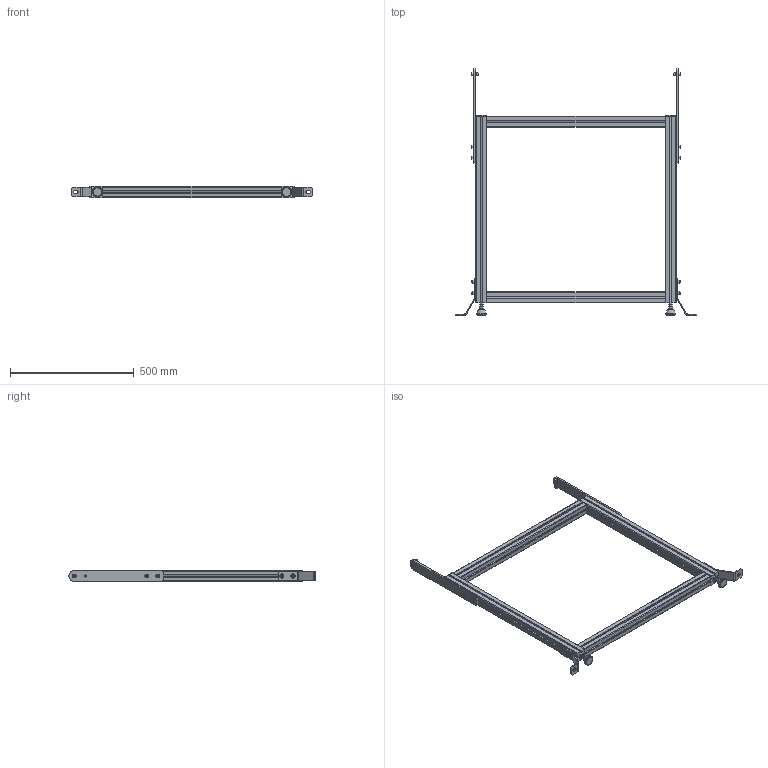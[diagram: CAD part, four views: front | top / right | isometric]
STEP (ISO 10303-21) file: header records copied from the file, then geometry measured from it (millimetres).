
FILE_DESCRIPTION (( 'STEP AP214' ), '1' );
FILE_NAME ('983-008-800.STEP', '2020-11-23T08:32:33', ( '' ), ( '' ), 'SwSTEP 2.0', 'SolidWorks 2020', '' );
FILE_SCHEMA (( 'AUTOMOTIVE_DESIGN' ));
Length unit declared in the file: millimetre
Products named in the file (15): 905-021; RONDELLE_910-111; 910-002_910-235; 935-055SV; CHASSIS JAMBAGE TB52 800_D‚faut[Brut d''usinage]; CHC THE_910-052H; CHC M8X20 + RP8; EMBOUT_915-010; 935-055; 983-007; 935-016; 910-100; 905-020; 983-008-800; 982-017
Assembly tree (22 placements, depth 4):
  983-008-800
    CHASSIS JAMBAGE TB52 800_D‚faut[Brut d''usinage]
    935-055  x2
      935-055SV
      910-100
      910-002_910-235
    EMBOUT_915-010  x2
    935-016  x2
    983-007  x2
      CHC M8X20 + RP8
        CHC THE_910-052H
        RONDELLE_910-111
      905-020
      905-021
      982-017
Bounding box: 976 x 996.5 x 45 mm (x, y, z)
Volume: 4199803 mm3; surface area: 1212847.8 mm2
Topology: 36 solids, 36 shells, 784 faces, 1912 edges, 1216 vertices
Faces by surface type: plane 530, cylinder 160, cone 72, torus 12, sphere 8, bspline 2
Full cylindrical faces by diameter (mm): 6 x6, 6.8 x10, 7.3 x4, 7.98 x6, 8 x14, 8.4 x6, 8.5 x8, 9 x4, 13 x6, 16 x6, 17 x4, 34 x2, 40 x2
Entity records: 11805 total; most frequent: CARTESIAN_POINT 2065, DIRECTION 1858, ORIENTED_EDGE 1828, EDGE_CURVE 914, LINE 732, VECTOR 732, VERTEX_POINT 618, AXIS2_PLACEMENT_3D 563
